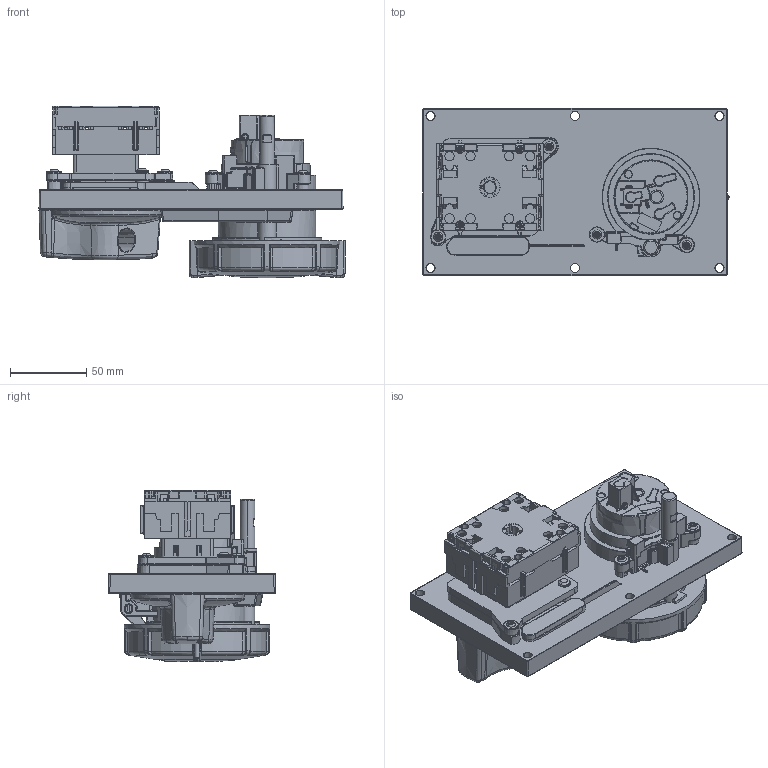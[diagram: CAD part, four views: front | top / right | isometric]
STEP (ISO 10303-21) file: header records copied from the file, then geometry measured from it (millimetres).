
FILE_DESCRIPTION((''),'2;1');
FILE_NAME('1130824_ASM_SW0001','2021-02-03T14:35:26',('schlabachr'),('MENNEKES'),'CREO PARAMETRIC BY PTC INC, 2019080','CREO PARAMETRIC BY PTC INC, 2019080','');
FILE_SCHEMA(('AUTOMOTIVE_DESIGN { 1 0 10303 214 1 1 1 1 }'));
Products named in the file (1): 1130824_ASM_SW0001
Bounding box: 201.29 x 109.98 x 112.98 mm (x, y, z)
Volume: 809911.9 mm3; surface area: 148989.2 mm2
Topology: 1 solids, 3 shells, 4306 faces, 11488 edges, 7087 vertices
Faces by surface type: plane 1874, cylinder 1307, bspline 444, torus 324, cone 162, sphere 151, extrusion 44
Entity records: 191738 total; most frequent: CARTESIAN_POINT 60055, ORIENTED_EDGE 22840, DIRECTION 20629, EDGE_CURVE 11420, AXIS2_PLACEMENT_3D 7209, VERTEX_POINT 7087, VECTOR 6211, LINE 6167
